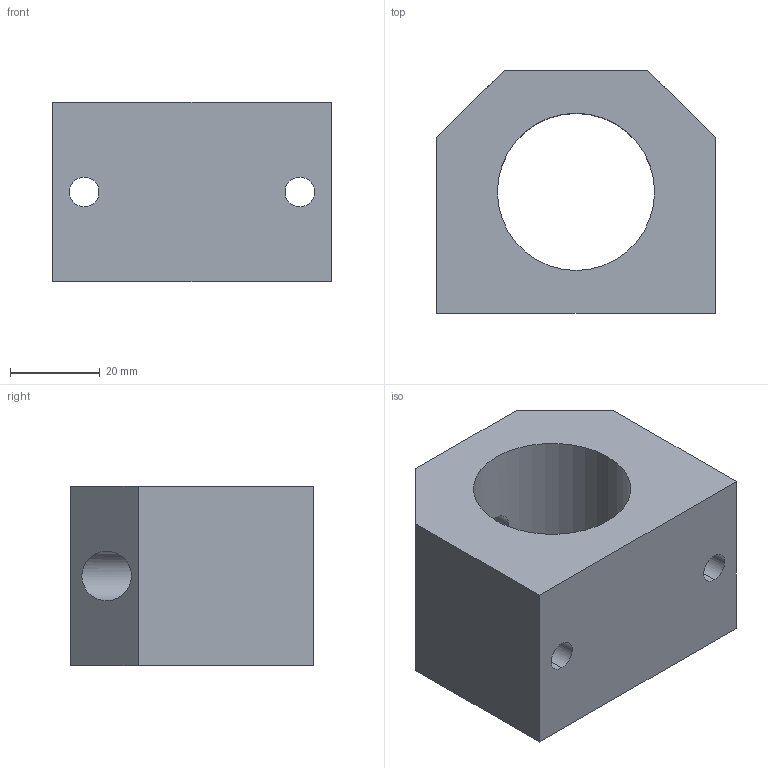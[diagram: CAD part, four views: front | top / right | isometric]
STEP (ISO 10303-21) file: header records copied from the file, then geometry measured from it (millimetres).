
FILE_DESCRIPTION (( 'STEP AP214' ), '1' );
FILE_NAME ('KGC27-25.step', '2020-03-04T13:07:02', ( '' ), ( '' ), 'SwSTEP 2.0', 'SolidWorks 2019', '' );
FILE_SCHEMA (( 'AUTOMOTIVE_DESIGN' ));
Length unit declared in the file: millimetre
Products named in the file (1): KGC27-25
Bounding box: 62 x 54 x 40 mm (x, y, z)
Volume: 80485.7 mm3; surface area: 19677.6 mm2
Topology: 1 solids, 1 shells, 22 faces, 54 edges, 36 vertices
Faces by surface type: cylinder 12, plane 10
Entity records: 832 total; most frequent: CARTESIAN_POINT 189, DIRECTION 112, ORIENTED_EDGE 108, EDGE_CURVE 54, AXIS2_PLACEMENT_3D 41, VERTEX_POINT 36, EDGE_LOOP 32, VECTOR 30
